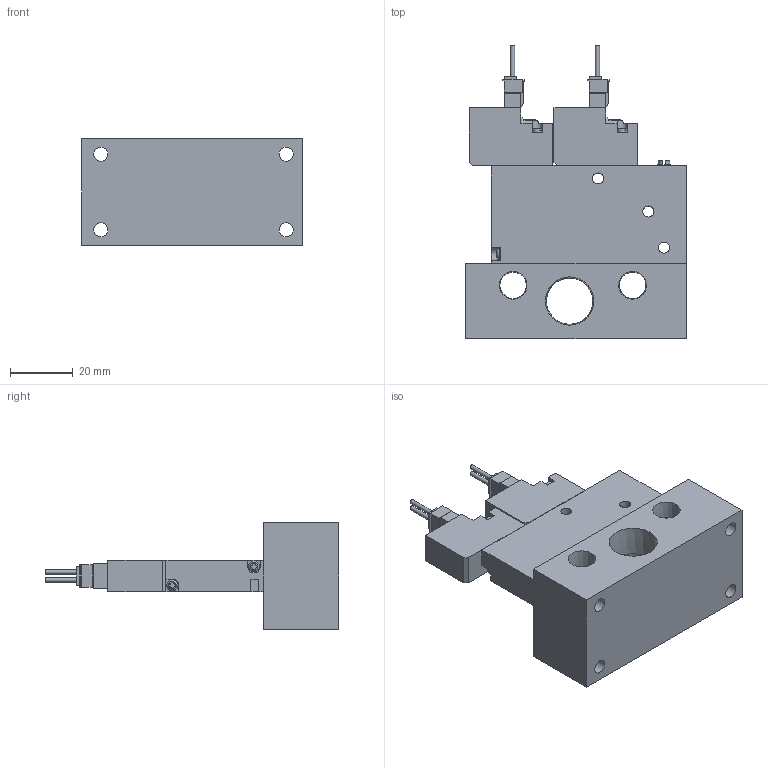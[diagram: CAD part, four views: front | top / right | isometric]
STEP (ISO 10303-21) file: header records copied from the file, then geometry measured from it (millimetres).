
FILE_DESCRIPTION(('STEP AP203'),'1');
FILE_NAME('BMPV42MZZ5A(B)101.stp','2025-04-30T01:12:14',(' '),(' '),'Spatial InterOp 3D',' ',' ');
FILE_SCHEMA(('CONFIG_CONTROL_DESIGN'));
Length unit declared in the file: millimetre
Products named in the file (4): BMPV42MZZ5A(B)101; VACUUM VALVE FUNCTION MPV42-A; UNIT-MPV42; MPV42-M10R-1
Assembly tree (4 placements, depth 2):
  BMPV42MZZ5A(B)101
    VACUUM VALVE FUNCTION MPV42-A  x2
    UNIT-MPV42
    MPV42-M10R-1
Bounding box: 70 x 93.45 x 34 mm (x, y, z)
Volume: 73979 mm3; surface area: 24537.7 mm2
Topology: 4 solids, 4 shells, 280 faces, 753 edges, 501 vertices
Faces by surface type: plane 220, cylinder 47, cone 9, sphere 2, torus 2
Full cylindrical faces by diameter (mm): 1.4 x4, 1.8 x1, 2.2 x2, 3 x4, 3.5 x7, 4.134 x1, 4.5 x4, 5 x1, 8.441 x2, 14.744 x1
Entity records: 5628 total; most frequent: CARTESIAN_POINT 1033, DIRECTION 894, ORIENTED_EDGE 860, EDGE_CURVE 430, LINE 322, VECTOR 322, VERTEX_POINT 305, AXIS2_PLACEMENT_3D 286
